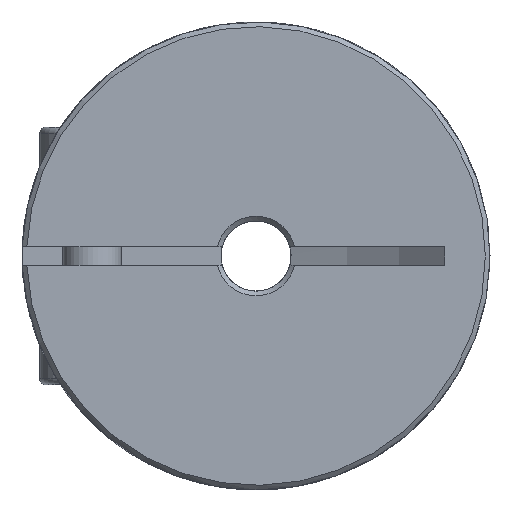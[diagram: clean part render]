
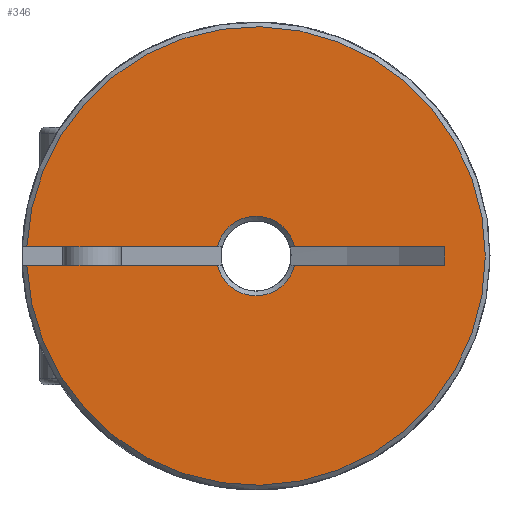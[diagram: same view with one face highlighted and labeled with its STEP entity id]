
A CAD part, left-side view. The second image highlights one B-rep face of the part: STEP entity #346.
In plain terms, the highlighted planar face has unit normal (-1, 0, 0).
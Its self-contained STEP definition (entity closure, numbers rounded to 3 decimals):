
#346 = ADVANCED_FACE( 'NONE', ( #768 ), #769, .F. );
#768 = FACE_OUTER_BOUND( '', #1439, .T. );
#769 = PLANE( '', #1440 );
#1439 = EDGE_LOOP( '', ( #2125, #2126, #2127, #2128, #2129, #2130, #2131, #2132 ) );
#1440 = AXIS2_PLACEMENT_3D( '', #2133, #2134, #2135 );
#2125 = ORIENTED_EDGE( '', *, *, #3307, .T. );
#2126 = ORIENTED_EDGE( '', *, *, #3308, .T. );
#2127 = ORIENTED_EDGE( '', *, *, #3309, .T. );
#2128 = ORIENTED_EDGE( '', *, *, #3310, .T. );
#2129 = ORIENTED_EDGE( '', *, *, #3311, .F. );
#2130 = ORIENTED_EDGE( '', *, *, #3312, .T. );
#2131 = ORIENTED_EDGE( '', *, *, #3313, .F. );
#2132 = ORIENTED_EDGE( '', *, *, #3314, .T. );
#2133 = CARTESIAN_POINT( '', ( 0., 1.5, 0. ) );
#2134 = DIRECTION( '', ( 1., 0., 0. ) );
#2135 = DIRECTION( '', ( 0., 1., 0. ) );
#3307 = EDGE_CURVE( 'NONE', #3844, #3845, #3846, .T. );
#3308 = EDGE_CURVE( 'NONE', #3845, #3847, #3848, .T. );
#3309 = EDGE_CURVE( 'NONE', #3847, #3849, #3850, .T. );
#3310 = EDGE_CURVE( 'NONE', #3849, #3851, #3852, .T. );
#3311 = EDGE_CURVE( 'NONE', #3853, #3851, #3854, .T. );
#3312 = EDGE_CURVE( 'NONE', #3853, #3855, #3856, .T. );
#3313 = EDGE_CURVE( 'NONE', #3857, #3855, #3858, .T. );
#3314 = EDGE_CURVE( 'NONE', #3857, #3844, #3859, .T. );
#3844 = VERTEX_POINT( 'NONE', #4628 );
#3845 = VERTEX_POINT( 'NONE', #4629 );
#3846 = LINE( '', #4630, #4631 );
#3847 = VERTEX_POINT( 'NONE', #4632 );
#3848 = CIRCLE( '', #4633, 1.7 );
#3849 = VERTEX_POINT( 'NONE', #4634 );
#3850 = LINE( '', #4635, #4636 );
#3851 = VERTEX_POINT( 'NONE', #4637 );
#3852 = CIRCLE( '', #4638, 9.8 );
#3853 = VERTEX_POINT( 'NONE', #4639 );
#3854 = LINE( '', #4640, #4641 );
#3855 = VERTEX_POINT( 'NONE', #4642 );
#3856 = CIRCLE( '', #4643, 1.7 );
#3857 = VERTEX_POINT( 'NONE', #4644 );
#3858 = LINE( '', #4645, #4646 );
#3859 = LINE( '', #4647, #4648 );
#4628 = CARTESIAN_POINT( '', ( 0., 8.073, 0.4 ) );
#4629 = CARTESIAN_POINT( '', ( 0., 1.652, 0.4 ) );
#4630 = CARTESIAN_POINT( '', ( 0., 1.5, 0.4 ) );
#4631 = VECTOR( '', #5765, 1000. );
#4632 = CARTESIAN_POINT( '', ( 0., -1.652, 0.4 ) );
#4633 = AXIS2_PLACEMENT_3D( '', #5766, #5767, #5768 );
#4634 = CARTESIAN_POINT( '', ( 0., -9.792, 0.4 ) );
#4635 = CARTESIAN_POINT( '', ( 0., 1.5, 0.4 ) );
#4636 = VECTOR( '', #5769, 1000. );
#4637 = CARTESIAN_POINT( '', ( 0., -9.792, -0.4 ) );
#4638 = AXIS2_PLACEMENT_3D( '', #5770, #5771, #5772 );
#4639 = CARTESIAN_POINT( '', ( 0., -1.652, -0.4 ) );
#4640 = CARTESIAN_POINT( '', ( 0., 1.5, -0.4 ) );
#4641 = VECTOR( '', #5773, 1000. );
#4642 = CARTESIAN_POINT( '', ( 0., 1.652, -0.4 ) );
#4643 = AXIS2_PLACEMENT_3D( '', #5774, #5775, #5776 );
#4644 = CARTESIAN_POINT( '', ( 0., 8.073, -0.4 ) );
#4645 = CARTESIAN_POINT( '', ( 0., 1.5, -0.4 ) );
#4646 = VECTOR( '', #5777, 1000. );
#4647 = CARTESIAN_POINT( '', ( 0., 8.073, -0.4 ) );
#4648 = VECTOR( '', #5778, 1000. );
#5765 = DIRECTION( '', ( 0., -1., 0. ) );
#5766 = CARTESIAN_POINT( '', ( 0., 0., 0. ) );
#5767 = DIRECTION( '', ( 1., 0., 0. ) );
#5768 = DIRECTION( '', ( 0., 0., -1. ) );
#5769 = DIRECTION( '', ( 0., -1., 0. ) );
#5770 = CARTESIAN_POINT( '', ( 0., 0., 0. ) );
#5771 = DIRECTION( '', ( -1., 0., 0. ) );
#5772 = DIRECTION( '', ( 0., 0., -1. ) );
#5773 = DIRECTION( '', ( 0., -1., 0. ) );
#5774 = CARTESIAN_POINT( '', ( 0., 0., 0. ) );
#5775 = DIRECTION( '', ( 1., 0., 0. ) );
#5776 = DIRECTION( '', ( 0., 0., -1. ) );
#5777 = DIRECTION( '', ( 0., -1., 0. ) );
#5778 = DIRECTION( '', ( 0., 0., 1. ) );
